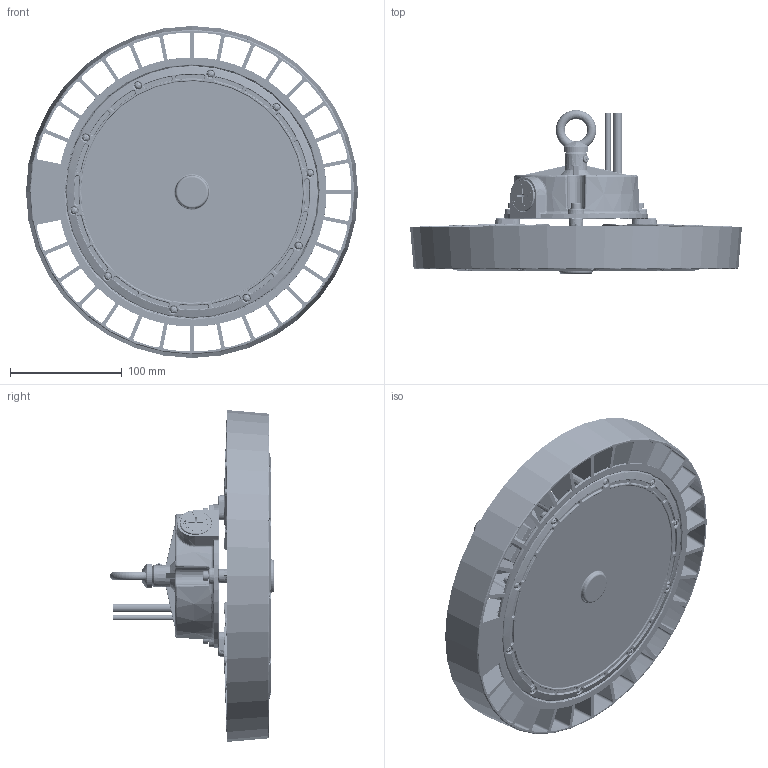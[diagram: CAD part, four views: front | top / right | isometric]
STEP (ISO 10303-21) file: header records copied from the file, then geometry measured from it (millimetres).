
FILE_DESCRIPTION((''),'2;1');
FILE_NAME('UFO-N150W_ASM','2026-05-05T16:34:54',('Administrator'),(''),'CREO PARAMETRIC BY PTC INC, 2024063','CREO PARAMETRIC BY PTC INC, 2024063','');
FILE_SCHEMA(('CONFIG_CONTROL_DESIGN'));
Products named in the file (27): UFO-N150; M5X1_HXQ_2; PG7-12_7; DK-226-120-LENS-J-NN1-12-22_1__; DJ-UFO150W-PCB_4_1; M3CHENTOULUOSI_1_3; M3X8_PAN_TOU_2_2_3; DK226-GJQ_2_1; DK226-GGX_ASM_15_ASM_1_ASM; DK226-GGX_ASM_ASM_1_ASM; NONE-47352; NONE-71452; Q7-_STEP00_ASM; Q7-PHILIPS0001; Q7-0002; Q7-00; Q7-__STEP0001; Q7-0004; Q7-0001_ASM; M10-14DIAOHUAN-1_1; M5X20-1_1_1; M5X20-1_1_2; M5X20-1_1_3; M5X20-1_1_ASM; M4X10_1; 3D0001_ASM; UFO-N150W_ASM
Assembly tree (45 placements, depth 5):
  UFO-N150W_ASM
    UFO-N150
    M5X1_HXQ_2
    PG7-12_7
    DK226-GGX_ASM_ASM_1_ASM
      DK226-GGX_ASM_15_ASM_1_ASM
        DK-226-120-LENS-J-NN1-12-22_1__
        DJ-UFO150W-PCB_4_1
        M3CHENTOULUOSI_1_3  x8
        M3X8_PAN_TOU_2_2_3  x10
        DK226-GJQ_2_1
    3D0001_ASM
      Q7-0001_ASM
        Q7-_STEP00_ASM
          NONE-47352
          NONE-71452
        Q7-PHILIPS0001
        Q7-0002
        Q7-00
        Q7-__STEP0001
        Q7-0004
      M10-14DIAOHUAN-1_1
      M5X20-1_1_ASM  x4
        M5X20-1_1_1
        M5X20-1_1_2
        M5X20-1_1_3
      M4X10_1
Bounding box: 297.6 x 146.9 x 297.6 mm (x, y, z)
Volume: 699343.1 mm3; surface area: 626323.5 mm2
Topology: 253 solids, 256 shells, 7192 faces, 17723 edges, 10902 vertices
Faces by surface type: plane 2555, cylinder 1545, bspline 1132, torus 929, cone 737, sphere 229, extrusion 61, revolution 4
Entity records: 358994 total; most frequent: CARTESIAN_POINT 215702, ORIENTED_EDGE 30816, DIRECTION 28017, EDGE_CURVE 15417, AXIS2_PLACEMENT_3D 10858, VERTEX_POINT 9571, EDGE_LOOP 6664, FACE_OUTER_BOUND 6411
